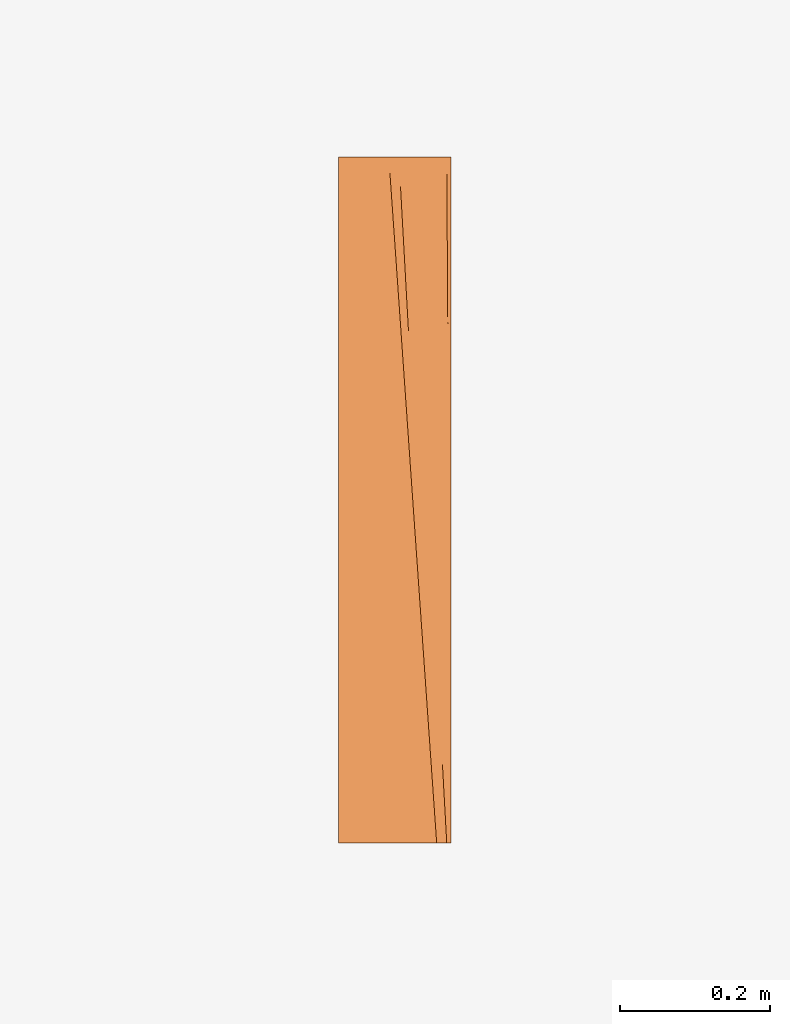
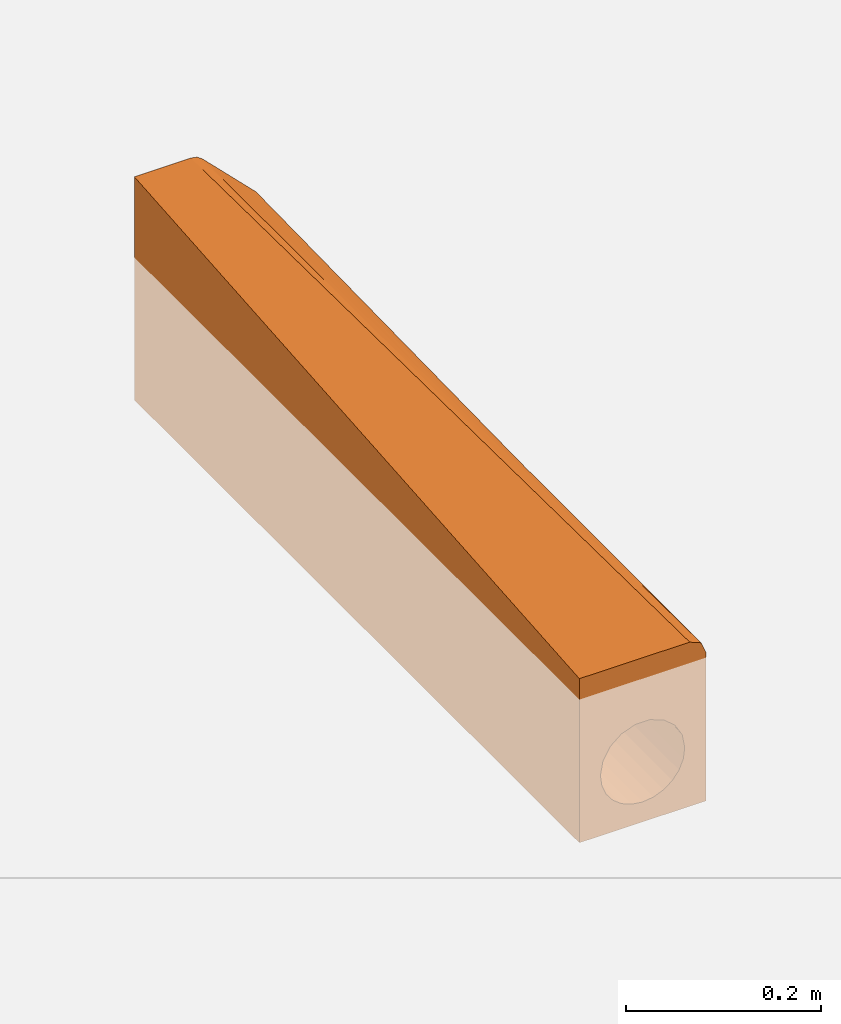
# One storey, part 2 of 2: 1 proxy.
"""IFC2X3 building model written with IfcOpenShell, lengths in millimetres."""

from ifc_helpers import new_model, entity, si_unit, converted_unit, direction, frame, origin, place, context, subcontext, project, spatial, face_set, surface_model, source, transform, mapped, material, element, save


model = new_model("IFC2X3")

# Units and contexts
model_context = context("Model", 3, precision=1e-06, world=origin(), true_north=direction((2.0, 6.12303176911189e-17, 1.0)))
context_of_model = context(None, 3, precision=1e-06, world=origin(), true_north=direction((2.0, 6.12303176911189e-17, 1.0)))
body_context = subcontext(model_context, "Body", "Model", "MODEL_VIEW")
ifc_project = project(units=[si_unit("LENGTHUNIT", "METRE", prefix="MILLI"), si_unit("AREAUNIT", "SQUARE_METRE", prefix="MILLI"), si_unit("VOLUMEUNIT", "CUBIC_METRE", prefix="MILLI"), converted_unit("PLANEANGLEUNIT", "DEGREE", entity("IfcRatioMeasure", 0.0174532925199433), si_unit("PLANEANGLEUNIT", "RADIAN"), dimensions=[0, 0, 0, 0, 0, 0, 0]), si_unit("TIMEUNIT", "SECOND")], contexts=[model_context, context_of_model])

# Site, building, storey
site_placement = place(None, origin())
site = spatial("IfcSite", under=ifc_project, at=site_placement, Name="Default", CompositionType="ELEMENT")
building_placement = place(site_placement, origin())
building = spatial("IfcBuilding", under=site, at=building_placement, CompositionType="ELEMENT")
storey_placement = place(building_placement, origin())
storey = spatial("IfcBuildingStorey", under=building, at=storey_placement, Name="Level 1", CompositionType="ELEMENT", Elevation=0.0)

# Proxy
ifc_material = material(Name="ACO Polymer Concrete.")
shared_shape = source(origin(), body_context, "Body", "SurfaceModel", [
    surface_model("IfcFaceBasedSurfaceModel", [(75.0, 915.0, -180.0), (-75.0, 915.0, -180.0), (-75.0, 915.0, 100.0), (-7.87005768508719, 915.0, 100.0), (-0.599072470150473, 915.0, 98.5537111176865), (5.56497115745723, 915.0, 94.4350288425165), (69.4350288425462, 915.0, 30.5649711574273), (73.5537111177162, 915.0, 24.4009275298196), (75.0, 915.0, 17.1299423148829), (-50.0, 915.0, -106.0), (-48.296291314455, 915.0, -118.940952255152), (-43.3012701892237, 915.0, -131.0), (-35.3553390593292, 915.0, -141.355339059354), (-25.0, 915.0, -149.301270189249), (-12.9409522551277, 915.0, -154.296291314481), (0.0, 915.0, -156.0), (12.9409522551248, 915.0, -154.296291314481), (25.0, 915.0, -149.30127018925), (35.3553390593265, 915.0, -141.355339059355), (43.301270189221, 915.0, -131.0), (48.2962913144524, 915.0, -118.940952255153), (50.0, 915.0, -106.0), (50.0, 915.0, -31.0), (46.9851776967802, 915.0, -13.9004948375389), (38.2971687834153, 915.0, 1.14540189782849), (25.0023755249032, 915.0, 12.2998985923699), (8.67357789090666, 915.0, 18.2419439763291), (-8.68555842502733, 915.0, 18.2398321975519), (-25.0056212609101, 915.0, 12.2980242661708), (-38.311390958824, 915.0, 1.12845036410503), (-46.9862373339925, 915.0, -13.9034067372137), (-50.0, 915.0, -31.0), (75.0, 0.0, -181.0), (75.0, 0.0, 6.0), (69.4350288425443, 0.0, 19.4350288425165), (56.0, 0.0, 25.0), (-75.0, 0.0, 25.0), (-75.0, 0.0, -181.0), (50.0, 0.0, -106.0), (48.2962913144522, 0.0, -118.940952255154), (43.3012701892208, 0.0, -131.0), (35.3553390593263, 0.0, -141.355339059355), (25.0, 0.0, -149.30127018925), (12.940952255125, 0.0, -154.296291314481), (0.0, 0.0, -156.0), (-12.940952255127, 0.0, -154.296291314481), (-25.0, 0.0, -149.30127018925), (-35.3553390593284, 0.0, -141.355339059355), (-43.301270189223, 0.0, -131.0), (-48.2962913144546, 0.0, -118.940952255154), (-50.0, 0.0, -106.0), (-50.0, 0.0, -105.0), (-46.9862373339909, 0.0, -87.9034067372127), (-38.3113909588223, 0.0, -72.8715496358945), (-25.0056212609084, 0.0, -61.7019757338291), (-8.68555842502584, 0.0, -55.7601678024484), (8.67357789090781, 0.0, -55.7580560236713), (25.002375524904, 0.0, -61.7001014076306), (38.2971687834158, 0.0, -72.8545981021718), (46.9851776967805, 0.0, -87.9004948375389), (50.0, 0.0, -105.0), (-32.1473314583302, 194.527225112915, -50.9721930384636), (-43.3060094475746, 304.053533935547, -55.4180926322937), (-43.3060094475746, 137.869328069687, -68.8581243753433), (-17.1055613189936, 163.770145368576, -44.7722262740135), (-16.8455901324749, 0.0, -58.7310717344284), (-43.3060094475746, 780.210661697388, -16.9092104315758), (25.2107499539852, 716.191313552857, -3.89960810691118), (17.0980797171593, 736.193362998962, 1.52483396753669), (25.9318292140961, 619.065192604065, -12.1837857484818), (-17.1055613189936, 751.540754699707, 2.7633186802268), (-27.5156328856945, 811.481136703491, 2.37591656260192), (-24.8214591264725, 722.492237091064, -3.16507524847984), (-48.6188982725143, 140.747322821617, -81.9465696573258), (16.8379768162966, 915.000036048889, 15.270921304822), (-0.00608422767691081, 111.748220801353, -45.9624379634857), (43.0913650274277, 440.438305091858, -44.0197603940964), (43.2997053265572, 258.156317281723, -59.1190749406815), (48.5424539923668, 343.125022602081, -65.2654112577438), (-46.9847729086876, 460.313036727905, -50.6718752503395), (-48.4249647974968, 286.146305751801, -69.4072959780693), (-48.6174221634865, 774.198019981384, -30.7105278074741), (-50.0000003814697, 800.624967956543, -40.2500004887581), (-48.4306375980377, 629.102879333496, -41.6930083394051), (16.8379768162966, 0.0, -58.7290778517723), (25.4531929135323, 110.731822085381, -53.0082015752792), (17.0980797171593, 161.714093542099, -44.9357882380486), (-31.6585054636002, 0.0, -67.2867631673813), (-28.6857308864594, 97.2636125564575, -56.1811092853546), (-36.4174764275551, 104.950025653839, -62.2519460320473), (-17.1055635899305, 457.500018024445, -21.0170265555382), (-10.9966171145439, 334.053010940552, -29.2079351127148), (-0.658412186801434, 475.293481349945, -16.5652997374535), (-31.6585054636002, 915.000036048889, 6.71323712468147), (-25.006592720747, 179.148676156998, -47.2140103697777), (22.8141734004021, 815.237302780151, 5.42348572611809), (-50.0000003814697, 228.749990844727, -86.4999981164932), (44.0684810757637, 118.418743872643, -71.8015993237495), (39.3209283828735, 178.175261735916, -59.7054989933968), (48.5614344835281, 629.062547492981, -42.2175584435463), (48.1804711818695, 489.876457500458, -52.0158611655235), (50.0000003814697, 571.875049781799, -58.7499977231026), (32.1374188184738, 179.172330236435, -52.2056933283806), (-35.3640523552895, 818.742321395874, -3.43815172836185), (-0.00608422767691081, 803.251769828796, 9.96243923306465), (47.6501029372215, 97.7302628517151, -81.9479413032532), (48.1718143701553, 195.986438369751, -75.7528570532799), (44.3171668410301, 795.784420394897, -17.4900513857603), (43.2997053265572, 659.163907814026, -26.6878604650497), (48.7634524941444, 779.754221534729, -30.8868547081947), (32.1374188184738, 753.259617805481, -5.77677538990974), (-16.8455901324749, 915.000036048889, 15.2689285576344), (42.6411744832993, 0.0, -80.3775429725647), (50.0000003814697, 228.750027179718, -86.4999981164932), (32.1374142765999, 460.14709482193, -29.4820440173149), (34.8506048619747, 319.659667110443, -43.2947728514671), (-34.6865137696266, 345.055900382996, -41.082094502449), (-23.4618945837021, 616.908928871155, -10.9543231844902), (-36.6725639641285, 623.392980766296, -20.5964172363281), (-32.6754628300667, 519.728632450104, -25.1213749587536), (-50.0000003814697, 571.874977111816, -58.7500022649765), (-12.0246339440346, 632.737613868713, -5.29522945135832), (23.8468229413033, 319.659703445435, -35.200851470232), (24.672926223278, 212.761595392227, -44.3045858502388), (7.45049397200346, 733.082215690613, 3.72930600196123), (11.1025461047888, 634.596948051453, -4.92565035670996), (50.0000003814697, 343.125058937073, -77.249999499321), (35.8346722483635, 629.007463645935, -19.2600321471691), (-0.00608620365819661, 657.991159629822, -1.7854160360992), (10.6589549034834, 372.268410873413, -26.042389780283), (10.8682353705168, 255.668060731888, -35.5184965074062), (-23.2137606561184, 310.635072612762, -35.5930513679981), (-32.1473314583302, 722.484606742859, -8.27400270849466), (8.07250587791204, 161.010084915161, -42.6343752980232), (39.3633313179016, 741.640632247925, -14.1896850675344), (-39.9733504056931, 536.547227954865, -31.5716103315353), (-41.0878263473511, 435.875211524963, -41.2569521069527), (22.8872339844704, 439.335792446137, -25.0148339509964), (15.373202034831, 522.671621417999, -15.1513042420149), (-50.0000003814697, 114.374995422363, -95.7499967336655), (-50.0000003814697, 343.12498626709, -77.249999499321), (-43.3060094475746, 616.572612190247, -30.1433272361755), (-50.0000003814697, 686.24997253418, -49.4999991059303), (-50.0000003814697, 457.499981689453, -68.0000008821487), (-0.00608620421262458, 257.008858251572, -34.2145835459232), (-26.9815834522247, 423.722428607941, -28.636676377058), (-1.22666079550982, 365.848635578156, -25.4272928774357), (50.0000003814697, 457.500054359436, -67.9999963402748), (41.0520636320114, 550.65483341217, -31.9227267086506), (50.0000003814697, 686.250045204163, -49.4999991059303), (45.8638293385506, 570.780022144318, -38.9260124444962), (50.0000003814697, 800.625040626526, -40.2500004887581), (42.6411744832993, 915.000036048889, -6.37754665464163), (50.0000003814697, 114.375013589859, -95.7499967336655), (-24.0079595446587, 516.925496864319, -19.3349344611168), (40.1004365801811, 288.452305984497, 46.8892845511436), (37.8290704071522, 329.65978345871, 50.0163238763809), (34.0446675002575, 314.531237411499, 50.7812481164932), (33.7960589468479, 402.82730140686, 55.5686602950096), (28.0568493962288, 400.312483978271, 57.8125004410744), (30.0527895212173, 371.718735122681, 55.468748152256), (14.0852741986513, 600.468762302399, 74.2187482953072), (21.6970200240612, 622.329891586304, 72.2256740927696), (12.0893352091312, 629.062474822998, 76.5624960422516), (-3.87817897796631, 857.812465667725, 95.3124961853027), (7.8363375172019, 873.792522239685, 91.307989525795), (-6.43184816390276, 894.396279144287, 98.3111685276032), (11.6144902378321, 805.248740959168, 86.1065174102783), (-1.88223984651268, 829.218716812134, 92.9687529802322), (0.113699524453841, 800.624967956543, 90.6250006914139), (38.0365454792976, 257.343757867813, 46.0937480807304), (36.040607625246, 285.937506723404, 48.4375003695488), (45.1398228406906, 155.582472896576, 37.7526624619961), (49.1859012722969, 123.622414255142, 34.3811204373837), (46.9145373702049, 164.829891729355, 37.5081620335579), (16.0812143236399, 571.875013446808, 71.8750005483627), (23.7135280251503, 585.746114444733, 69.4495081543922), (53.7286336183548, 41.2074729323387, 28.1270395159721), (51.4572697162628, 82.4149458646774, 31.2540811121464), (50.247160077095, 82.4149458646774, 31.7553223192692), (47.6934914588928, 118.998704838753, 34.7539923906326), (13.6309959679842, 768.664927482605, 83.3303514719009), (2.10963884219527, 772.031219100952, 88.2812484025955), (4.10557811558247, 743.437470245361, 85.9374961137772), (27.7465394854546, 512.578596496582, 63.8971671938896), (18.0771533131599, 543.281264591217, 69.5312482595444), (20.0730934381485, 514.687515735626, 67.1875005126), (42.5861542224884, 192.166231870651, 40.7513325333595), (53.1235787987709, 41.2074729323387, 28.3776623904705), (19.6805142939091, 658.913632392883, 75.0018445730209), (8.09745666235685, 686.24997253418, 81.2500006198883), (10.0933962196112, 657.656223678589, 78.9062483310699), (9.59798337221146, 841.832481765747, 88.8826924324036), (25.7300337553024, 549.162373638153, 66.6733376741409), (35.812564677, 366.243560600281, 52.7924943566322), (32.0487273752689, 343.12498626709, 53.1250004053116), (26.0609115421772, 428.906232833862, 60.1562481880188), (42.371805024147, 247.244828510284, 43.7622406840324), (22.0690312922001, 486.093766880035, 64.8437482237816), (6.10151767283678, 714.843721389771, 83.5937529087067), (17.6640085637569, 695.497445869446, 77.7780105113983), (15.6475028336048, 732.081186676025, 80.5541855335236), (44.643168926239, 206.037369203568, 40.6352013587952), (40.0324856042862, 228.750009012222, 43.750000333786), (31.7795509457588, 439.411078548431, 58.3448307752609), (29.7630452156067, 475.994819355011, 61.1210012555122), (24.0649714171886, 457.500018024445, 62.5000004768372), (37.5874268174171, 334.043709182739, 50.3490025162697), (43.7249518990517, 222.69581823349, 41.8993320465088), (51.9015830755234, 303.008230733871, 39.8810595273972), (63.9048157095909, 100.80958070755, 26.0263728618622), (61.0343286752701, 295.085240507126, 31.3561847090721), (69.0406668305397, 214.090638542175, 20.767257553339), (68.2989788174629, 300.964787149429, 22.2877497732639), (69.4018411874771, 138.1796833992, 20.0871073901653), (62.5230005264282, 201.385981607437, 28.796311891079), (55.02092846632, 629.477493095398, 41.2678753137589), (46.991880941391, 632.348611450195, 49.5694261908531), (52.756172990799, 563.46502532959, 42.9164529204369), (74.3043807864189, 114.375004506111, 9.07062128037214), (54.008272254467, 181.718450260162, 35.0538514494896), (36.2961561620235, 743.605119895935, 61.5179428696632), (32.6737936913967, 827.991902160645, 66.2138953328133), (27.280686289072, 776.164469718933, 70.6951670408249), (57.2730847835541, 489.339317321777, 37.3485560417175), (61.43761074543, 374.49625453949, 31.6246162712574), (64.6601384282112, 448.257268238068, 28.3970947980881), (70.7894518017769, 692.304181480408, 24.5862649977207), (70.450846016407, 747.978108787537, 26.0809412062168), (63.4347317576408, 791.572250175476, 34.4414274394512), (49.8624769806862, 111.347909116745, 33.4496661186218), (72.9131366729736, 343.12498626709, 15.2118644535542), (41.9102234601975, 788.638562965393, 56.5527344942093), (51.3011518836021, 713.847125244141, 46.1374454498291), (48.1551547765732, 829.111673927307, 50.748991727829), (37.5000002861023, 915.000036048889, 62.5000004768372), (49.5219408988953, 492.032721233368, 45.275220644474), (44.1652184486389, 411.578838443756, 48.5179460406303), (31.4499017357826, 445.39163646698, 58.7986684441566), (19.7162043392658, 783.332782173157, 78.0031330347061), (12.0362043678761, 797.59789981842, 85.5259387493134), (15.2718205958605, 738.896831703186, 81.0713959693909), (16.9507549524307, 915.000036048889, 83.0492458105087), (61.2815746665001, 657.44075717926, 34.7919601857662), (56.8049129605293, 777.789370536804, 41.2051293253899), (70.1122402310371, 803.652108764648, 27.5756174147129), (38.0307568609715, 513.663850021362, 55.9049588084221), (32.4988270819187, 647.540852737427, 63.5359247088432), (71.5034843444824, 574.90208158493, 21.4343748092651), (58.0492456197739, 915.000036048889, 41.9507551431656), (46.6634625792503, 915.000036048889, 53.3365381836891), (60.4792163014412, 544.924296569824, 34.3530380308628), (72.217512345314, 457.500018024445, 18.282485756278), (24.9786692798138, 562.793736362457, 67.7077585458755), (18.5074368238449, 680.195836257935, 76.6168441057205), (73.6087564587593, 228.750009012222, 12.1412431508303), (53.2879946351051, 376.819441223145, 40.053237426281), (28.3365379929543, 915.000036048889, 71.6634627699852), (75.0000005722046, 289.161964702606, 9.51732877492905), (75.0000005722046, 330.470816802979, 10.0198042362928), (73.0870404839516, 314.531237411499, 14.4442082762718), (75.0000005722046, 403.536960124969, 10.9085717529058), (72.5653245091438, 400.312483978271, 16.7471745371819), (72.7392283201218, 371.718735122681, 15.979519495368), (71.3479887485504, 600.468762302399, 22.1207632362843), (75.0000005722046, 622.735390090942, 13.5748731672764), (71.1740803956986, 629.062474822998, 22.8884171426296), (69.7828408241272, 857.812465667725, 29.0296597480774), (75.0000005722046, 873.691147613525, 16.6274666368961), (69.5606478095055, 894.345555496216, 30.0104615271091), (75.0000005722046, 805.400766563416, 15.7967919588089), (69.9567446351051, 829.218716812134, 28.262005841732), (70.1306484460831, 800.624967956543, 27.4943496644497), (73.4348526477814, 257.343757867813, 12.9088981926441), (73.2609442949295, 285.937506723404, 13.676553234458), (74.0531424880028, 155.683847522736, 10.1796384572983), (75.0000005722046, 123.926556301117, 7.50742692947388), (75.0000005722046, 165.235408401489, 8.00990239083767), (71.5218925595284, 571.875013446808, 21.3531070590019), (75.0000005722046, 586.202336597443, 13.1304894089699), (75.0000005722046, 41.3088566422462, 6.50247543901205), (75.0000005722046, 82.6177042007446, 7.00495090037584), (74.4975239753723, 82.6177042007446, 8.21803433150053), (74.2753309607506, 119.15077586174, 9.19883667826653), (75.0000005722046, 768.867676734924, 15.3524082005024), (70.3045567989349, 772.031219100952, 26.7266934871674), (75.0000005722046, 513.136193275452, 12.2417230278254), (71.6957963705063, 543.281264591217, 20.5854508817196), (71.8697047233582, 514.687515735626, 19.8177969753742), (73.830949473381, 192.216919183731, 11.16044023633), (74.7487622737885, 41.3088521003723, 7.10901715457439), (75.0000005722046, 659.268479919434, 14.0192569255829), (70.8262727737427, 686.24997253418, 24.4237294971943), (71.0001765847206, 657.656223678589, 23.656073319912), (75.0000005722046, 841.933856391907, 16.2411745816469), (70.4784606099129, 743.437470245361, 25.959039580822), (75.0000005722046, 549.669283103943, 12.6861067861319), (75.0000005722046, 440.070049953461, 11.3529555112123), (75.0000005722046, 476.60310344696, 11.7973392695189), (75.0000005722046, 367.00390663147, 10.4641879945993), (72.3914206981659, 428.906232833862, 17.5148307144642), (75.0000005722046, 247.853112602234, 9.01485331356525), (72.0436085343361, 486.093766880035, 19.0501407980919), (70.6523644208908, 714.843721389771, 25.1913834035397), (75.0000005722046, 695.801569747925, 14.4636406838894), (75.0000005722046, 732.334659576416, 14.9080244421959), (75.0000005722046, 206.544260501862, 8.51237785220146)], [face_set([[[0, 1, 2, 3, 4, 5, 6, 7, 8], [9, 10, 11, 12, 13, 14, 15, 16, 17, 18, 19, 20, 21, 22, 23, 24, 25, 26, 27, 28, 29, 30, 31]], [[32, 33, 34, 35, 36, 37], [38, 39, 40, 41, 42, 43, 44, 45, 46, 47, 48, 49, 50, 51, 52, 53, 54, 55, 56, 57, 58, 59, 60]], [[1, 0, 32, 37]], [[2, 1, 37, 36]], [[3, 2, 36, 35]], [[0, 8, 33, 32]], [[19, 20, 39, 40]], [[18, 19, 40, 41]], [[16, 17, 42, 43]], [[17, 18, 41, 42]], [[15, 16, 43, 44]], [[20, 21, 38, 39]], [[13, 14, 45, 46]], [[12, 13, 46, 47]], [[10, 11, 48, 49]], [[11, 12, 47, 48]], [[9, 10, 49, 50]], [[44, 45, 14, 15]], [[21, 22, 60, 38]], [[61, 62, 63]], [[55, 64, 65]], [[29, 30, 66]], [[67, 68, 69]], [[70, 71, 72]], [[63, 73, 52]], [[68, 74, 26]], [[55, 56, 75]], [[76, 77, 78]], [[53, 63, 52]], [[62, 79, 80]], [[81, 31, 82]], [[66, 81, 83]], [[84, 85, 86]], [[87, 88, 89]], [[90, 91, 92]], [[71, 28, 93]], [[52, 73, 51]], [[94, 61, 88]], [[67, 95, 68]], [[80, 96, 73]], [[97, 98, 58]], [[99, 100, 101]], [[85, 58, 102]], [[103, 93, 29]], [[95, 74, 68]], [[93, 103, 71]], [[104, 26, 27]], [[105, 106, 97]], [[107, 108, 109]], [[110, 24, 25]], [[71, 111, 28]], [[97, 58, 112]], [[54, 88, 87]], [[113, 78, 106]], [[85, 84, 57]], [[114, 115, 76]], [[108, 99, 109]], [[116, 62, 61]], [[117, 118, 119]], [[79, 83, 120]], [[121, 70, 117]], [[114, 122, 115]], [[86, 85, 123]], [[68, 124, 125]], [[78, 113, 126]], [[127, 110, 69]], [[128, 121, 92]], [[23, 109, 22]], [[122, 129, 130]], [[64, 54, 65]], [[131, 91, 90]], [[118, 117, 132]], [[104, 70, 128]], [[122, 123, 115]], [[86, 130, 133]], [[125, 69, 68]], [[107, 134, 108]], [[135, 79, 136]], [[116, 61, 131]], [[114, 137, 122]], [[138, 92, 129]], [[87, 89, 53]], [[80, 73, 63]], [[80, 63, 62]], [[73, 96, 139]], [[136, 62, 116]], [[79, 140, 80]], [[141, 66, 83]], [[83, 142, 120]], [[81, 66, 30]], [[66, 141, 118]], [[31, 81, 30]], [[81, 142, 83]], [[140, 79, 120, 143]], [[79, 141, 83]], [[91, 64, 144]], [[145, 131, 90]], [[145, 116, 131]], [[62, 136, 79]], [[116, 119, 136]], [[119, 118, 135]], [[64, 91, 131]], [[137, 129, 122]], [[144, 146, 91]], [[92, 138, 125]], [[146, 129, 92]], [[130, 129, 144]], [[78, 100, 76]], [[106, 78, 77]], [[100, 78, 147]], [[127, 148, 108]], [[97, 106, 77]], [[98, 115, 102]], [[98, 97, 77]], [[105, 97, 59]], [[101, 149, 99]], [[99, 108, 150]], [[100, 147, 101]], [[109, 99, 149]], [[150, 108, 148]], [[109, 149, 151]], [[109, 23, 107]], [[24, 107, 152]], [[134, 24, 110]], [[137, 69, 138]], [[127, 108, 134]], [[69, 114, 127]], [[148, 114, 76]], [[114, 148, 127]], [[150, 76, 100]], [[76, 150, 148]], [[100, 99, 150]], [[105, 60, 153]], [[153, 113, 106]], [[76, 115, 77]], [[154, 119, 145]], [[70, 121, 128]], [[154, 121, 117]], [[92, 121, 90]], [[140, 96, 80]], [[134, 107, 24]], [[127, 134, 110]], [[56, 86, 133]], [[64, 75, 144]], [[104, 27, 70]], [[128, 125, 124]], [[61, 89, 88]], [[64, 88, 54]], [[111, 71, 70]], [[61, 63, 89]], [[63, 53, 89]], [[64, 131, 94]], [[131, 61, 94]], [[132, 71, 103]], [[29, 66, 103]], [[66, 132, 103]], [[72, 71, 132]], [[70, 27, 111]], [[132, 117, 72]], [[117, 70, 72]], [[26, 104, 124]], [[92, 125, 128]], [[69, 125, 138]], [[26, 124, 68]], [[128, 124, 104]], [[64, 55, 75]], [[64, 94, 88]], [[86, 56, 84]], [[58, 85, 57]], [[123, 85, 102]], [[115, 123, 102]], [[130, 123, 122]], [[66, 118, 132]], [[135, 118, 141]], [[79, 135, 141]], [[119, 135, 136]], [[69, 137, 114]], [[129, 137, 138]], [[154, 145, 90]], [[51, 73, 139]], [[82, 142, 81]], [[116, 145, 119]], [[121, 154, 90]], [[119, 154, 117]], [[129, 146, 144]], [[92, 91, 146]], [[133, 144, 75]], [[130, 86, 123]], [[144, 133, 130]], [[56, 133, 75]], [[60, 105, 59]], [[147, 78, 126]], [[153, 106, 105]], [[115, 98, 77]], [[58, 98, 102]], [[107, 23, 152]], [[112, 59, 97]], [[22, 109, 151]], [[69, 110, 67]], [[95, 110, 25]], [[110, 95, 67]], [[74, 95, 25]], [[50, 51, 31, 9]], [[155, 156, 157]], [[158, 159, 160]], [[161, 162, 163]], [[164, 165, 166]], [[167, 168, 169]], [[170, 155, 171]], [[172, 173, 174]], [[175, 176, 161]], [[171, 155, 157]], [[177, 178, 179]], [[180, 178, 173]], [[181, 169, 182, 183]], [[184, 185, 186]], [[187, 172, 174]], [[188, 35, 177]], [[189, 190, 191]], [[192, 165, 164]], [[189, 191, 163]], [[193, 176, 175]], [[4, 166, 165]], [[168, 167, 192]], [[194, 195, 156]], [[188, 177, 179]], [[165, 5, 4]], [[196, 159, 158]], [[195, 194, 160]], [[4, 3, 166]], [[156, 195, 157]], [[155, 170, 197]], [[198, 184, 186]], [[199, 190, 200]], [[199, 200, 201]], [[173, 172, 180]], [[180, 179, 178]], [[174, 202, 187]], [[202, 197, 203]], [[200, 190, 189]], [[162, 161, 176]], [[181, 167, 169]], [[158, 204, 196]], [[204, 205, 206]], [[194, 158, 160]], [[170, 203, 197]], [[193, 175, 185]], [[198, 206, 205]], [[181, 183, 201]], [[201, 183, 199]], [[202, 203, 187]], [[189, 163, 162]], [[192, 164, 168]], [[204, 206, 196]], [[184, 198, 205]], [[193, 185, 184]], [[207, 208, 209]], [[35, 34, 210]], [[211, 212, 213]], [[214, 215, 210]], [[216, 217, 218]], [[33, 219, 214]], [[220, 210, 215]], [[221, 222, 223]], [[224, 225, 226]], [[227, 228, 229]], [[208, 230, 220]], [[213, 231, 225]], [[232, 233, 234]], [[234, 235, 232]], [[218, 236, 224]], [[207, 237, 238]], [[214, 212, 215]], [[232, 222, 221]], [[239, 240, 241]], [[222, 242, 223]], [[233, 243, 244]], [[245, 229, 228]], [[246, 217, 247]], [[227, 243, 248]], [[234, 249, 250, 235]], [[248, 251, 252]], [[227, 229, 243]], [[226, 252, 251]], [[253, 247, 254]], [[209, 208, 220]], [[247, 253, 246]], [[237, 246, 238]], [[217, 233, 221]], [[236, 246, 237]], [[231, 213, 255]], [[256, 236, 237]], [[234, 233, 244]], [[251, 248, 243]], [[207, 209, 237]], [[256, 237, 209]], [[246, 236, 217]], [[253, 238, 246]], [[221, 233, 232]], [[216, 233, 217]], [[239, 242, 240]], [[223, 239, 254]], [[5, 240, 242]], [[245, 6, 249]], [[230, 35, 210]], [[209, 220, 215]], [[230, 210, 220]], [[34, 33, 214]], [[214, 210, 34]], [[212, 219, 255]], [[219, 212, 214]], [[212, 255, 213]], [[231, 252, 226]], [[211, 213, 225]], [[256, 211, 225]], [[209, 215, 211]], [[212, 211, 215]], [[235, 222, 232]], [[222, 235, 257, 242]], [[223, 247, 221]], [[217, 221, 247]], [[249, 234, 244]], [[224, 226, 251]], [[231, 226, 225]], [[218, 224, 251]], [[224, 236, 256]], [[216, 251, 243]], [[236, 218, 217]], [[251, 216, 218]], [[233, 216, 243]], [[211, 256, 209]], [[256, 225, 224]], [[223, 254, 247]], [[254, 239, 241]], [[242, 239, 223]], [[244, 243, 229]], [[245, 249, 229]], [[249, 244, 229]], [[258, 259, 260]], [[261, 262, 263]], [[264, 265, 266]], [[267, 268, 269]], [[270, 271, 272]], [[273, 258, 274]], [[275, 276, 277]], [[278, 279, 264]], [[274, 258, 260]], [[280, 281, 282]], [[283, 281, 276]], [[284, 272, 285]], [[286, 287, 288]], [[289, 275, 277]], [[290, 33, 280, 282]], [[291, 292, 293, 266]], [[294, 268, 267]], [[285, 295, 284]], [[296, 279, 278]], [[297, 298, 252]], [[7, 269, 268]], [[271, 270, 294]], [[299, 231, 259]], [[268, 8, 7]], [[300, 262, 261]], [[231, 299, 263]], [[7, 6, 269]], [[259, 231, 260]], [[258, 273, 301]], [[302, 286, 288]], [[303, 292, 304]], [[303, 304, 305]], [[276, 275, 283]], [[283, 282, 281]], [[277, 306, 289]], [[306, 301, 255]], [[304, 292, 291]], [[265, 264, 279]], [[284, 270, 272]], [[261, 297, 300]], [[299, 261, 263]], [[273, 255, 301]], [[296, 278, 287]], [[302, 252, 298]], [[284, 295, 305]], [[305, 295, 303]], [[306, 255, 289]], [[291, 266, 265]], [[294, 267, 271]], [[297, 252, 300]], [[286, 302, 298]], [[296, 287, 286]]])]),
])
proxy_placement = place(storey_placement, frame((-13460.350578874, -1522.05906174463, 0.0)))
element("IfcBuildingElementProxy", 1, at=proxy_placement, inside=storey, material=ifc_material, Name="Civil-Drainage-Channel-ACO-KerbDrain-SP280:7939 - RH drop kerb - 1000mm LG:7939 - RH drop kerb - 1000mm LG", ObjectType="7939 - RH drop kerb - 1000mm LG", CompositionType="ELEMENT", context=body_context, shape_type="MappedRepresentation", body=[
    mapped(shared_shape, transform((0.0, 0.0, 0.0), scale=1.0)),
])

save(model, "model.ifc")
